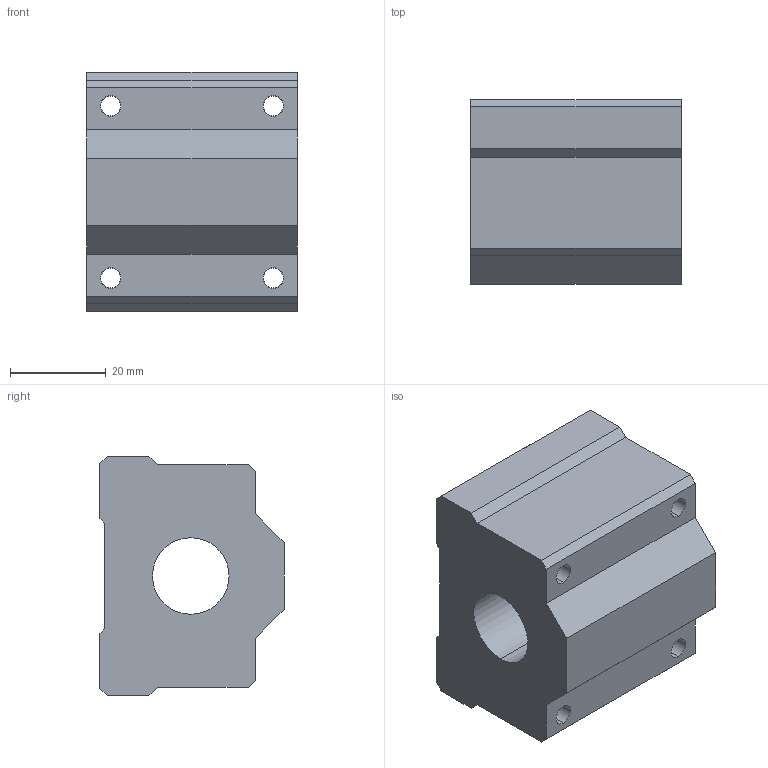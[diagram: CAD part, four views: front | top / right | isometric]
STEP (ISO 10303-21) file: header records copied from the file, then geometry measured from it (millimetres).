
FILE_DESCRIPTION (( 'STEP AP214' ), '1' );
FILE_NAME ('2.7090 Runko SCE16UU.STEP', '2024-06-25T10:21:38', ( '' ), ( '' ), 'SwSTEP 2.0', 'SolidWorks 2024', '' );
FILE_SCHEMA (( 'AUTOMOTIVE_DESIGN' ));
Length unit declared in the file: millimetre
Products named in the file (1): 2.7090 Runko SCE16UU
Bounding box: 44 x 38.5 x 50 mm (x, y, z)
Volume: 61591.2 mm3; surface area: 13976.8 mm2
Topology: 1 solids, 1 shells, 52 faces, 130 edges, 84 vertices
Faces by surface type: plane 26, cylinder 18, cone 8
Entity records: 1597 total; most frequent: DIRECTION 280, CARTESIAN_POINT 267, ORIENTED_EDGE 260, EDGE_CURVE 130, AXIS2_PLACEMENT_3D 97, LINE 86, VECTOR 86, VERTEX_POINT 84
